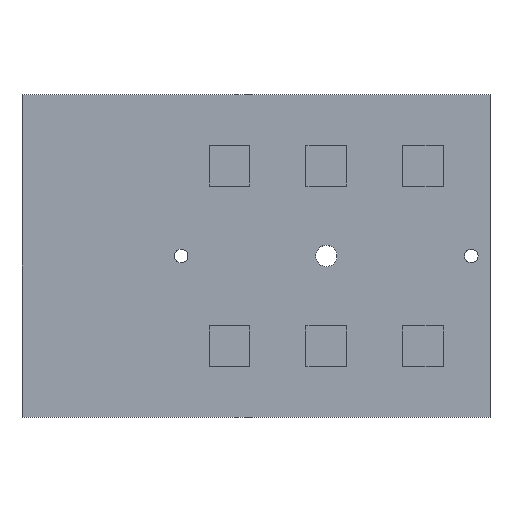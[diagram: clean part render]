
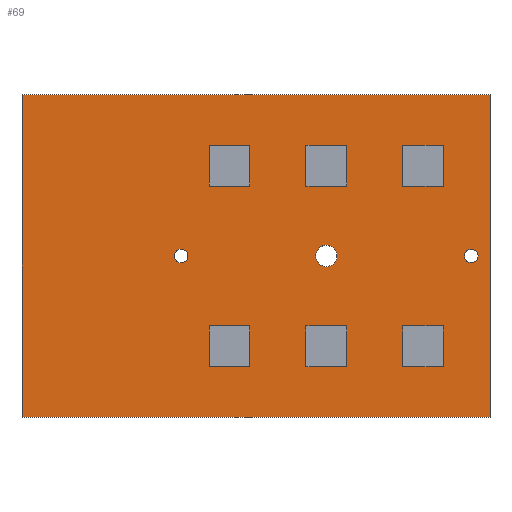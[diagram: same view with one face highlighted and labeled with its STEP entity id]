
A CAD part, top view. The second image highlights one B-rep face of the part: STEP entity #69.
In plain terms, the highlighted planar face has unit normal (0, 0, 1).
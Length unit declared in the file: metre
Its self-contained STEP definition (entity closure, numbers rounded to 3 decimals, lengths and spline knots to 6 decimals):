
#69=ADVANCED_FACE('',(#167,#168,#169,#170,#171,#172,#173,#174,#175,#176),#177,.T.);
#167=FACE_BOUND('',#306,.T.);
#168=FACE_BOUND('',#307,.T.);
#169=FACE_BOUND('',#308,.T.);
#170=FACE_BOUND('',#309,.T.);
#171=FACE_BOUND('',#310,.T.);
#172=FACE_BOUND('',#311,.T.);
#173=FACE_BOUND('',#312,.T.);
#174=FACE_BOUND('',#313,.T.);
#175=FACE_BOUND('',#314,.T.);
#176=FACE_OUTER_BOUND('',#315,.T.);
#177=PLANE('',#316);
#306=EDGE_LOOP('',(#454,#455,#456,#457));
#307=EDGE_LOOP('',(#458,#459,#460,#461));
#308=EDGE_LOOP('',(#462,#463,#464,#465));
#309=EDGE_LOOP('',(#466,#467,#468,#469));
#310=EDGE_LOOP('',(#470,#471,#472,#473));
#311=EDGE_LOOP('',(#474,#475,#476,#477));
#312=EDGE_LOOP('',(#478));
#313=EDGE_LOOP('',(#479));
#314=EDGE_LOOP('',(#480));
#315=EDGE_LOOP('',(#481,#482,#483,#484));
#316=AXIS2_PLACEMENT_3D('',#485,#486,#487);
#454=ORIENTED_EDGE('',*,*,#779,.F.);
#455=ORIENTED_EDGE('',*,*,#780,.F.);
#456=ORIENTED_EDGE('',*,*,#781,.F.);
#457=ORIENTED_EDGE('',*,*,#782,.F.);
#458=ORIENTED_EDGE('',*,*,#783,.F.);
#459=ORIENTED_EDGE('',*,*,#784,.F.);
#460=ORIENTED_EDGE('',*,*,#785,.F.);
#461=ORIENTED_EDGE('',*,*,#786,.F.);
#462=ORIENTED_EDGE('',*,*,#787,.F.);
#463=ORIENTED_EDGE('',*,*,#788,.F.);
#464=ORIENTED_EDGE('',*,*,#789,.F.);
#465=ORIENTED_EDGE('',*,*,#790,.F.);
#466=ORIENTED_EDGE('',*,*,#791,.F.);
#467=ORIENTED_EDGE('',*,*,#792,.F.);
#468=ORIENTED_EDGE('',*,*,#793,.F.);
#469=ORIENTED_EDGE('',*,*,#794,.F.);
#470=ORIENTED_EDGE('',*,*,#795,.F.);
#471=ORIENTED_EDGE('',*,*,#796,.F.);
#472=ORIENTED_EDGE('',*,*,#797,.F.);
#473=ORIENTED_EDGE('',*,*,#798,.F.);
#474=ORIENTED_EDGE('',*,*,#799,.F.);
#475=ORIENTED_EDGE('',*,*,#800,.F.);
#476=ORIENTED_EDGE('',*,*,#801,.F.);
#477=ORIENTED_EDGE('',*,*,#802,.F.);
#478=ORIENTED_EDGE('',*,*,#803,.T.);
#479=ORIENTED_EDGE('',*,*,#804,.T.);
#480=ORIENTED_EDGE('',*,*,#805,.T.);
#481=ORIENTED_EDGE('',*,*,#776,.F.);
#482=ORIENTED_EDGE('',*,*,#806,.F.);
#483=ORIENTED_EDGE('',*,*,#771,.F.);
#484=ORIENTED_EDGE('',*,*,#767,.F.);
#485=CARTESIAN_POINT('',(0.0,0.0,0.0));
#486=DIRECTION('',(0.0,0.0,1.0));
#487=DIRECTION('',(1.0,0.0,0.0));
#767=EDGE_CURVE('',#896,#898,#899,.T.);
#771=EDGE_CURVE('',#898,#904,#905,.T.);
#776=EDGE_CURVE('',#911,#896,#913,.T.);
#779=EDGE_CURVE('',#916,#917,#918,.T.);
#780=EDGE_CURVE('',#919,#916,#920,.T.);
#781=EDGE_CURVE('',#921,#919,#922,.T.);
#782=EDGE_CURVE('',#917,#921,#923,.T.);
#783=EDGE_CURVE('',#924,#925,#926,.T.);
#784=EDGE_CURVE('',#927,#924,#928,.T.);
#785=EDGE_CURVE('',#929,#927,#930,.T.);
#786=EDGE_CURVE('',#925,#929,#931,.T.);
#787=EDGE_CURVE('',#932,#933,#934,.T.);
#788=EDGE_CURVE('',#935,#932,#936,.T.);
#789=EDGE_CURVE('',#937,#935,#938,.T.);
#790=EDGE_CURVE('',#933,#937,#939,.T.);
#791=EDGE_CURVE('',#940,#941,#942,.T.);
#792=EDGE_CURVE('',#943,#940,#944,.T.);
#793=EDGE_CURVE('',#945,#943,#946,.T.);
#794=EDGE_CURVE('',#941,#945,#947,.T.);
#795=EDGE_CURVE('',#948,#949,#950,.T.);
#796=EDGE_CURVE('',#951,#948,#952,.T.);
#797=EDGE_CURVE('',#953,#951,#954,.T.);
#798=EDGE_CURVE('',#949,#953,#955,.T.);
#799=EDGE_CURVE('',#956,#957,#958,.T.);
#800=EDGE_CURVE('',#959,#956,#960,.T.);
#801=EDGE_CURVE('',#961,#959,#962,.T.);
#802=EDGE_CURVE('',#957,#961,#963,.T.);
#803=EDGE_CURVE('',#964,#964,#965,.T.);
#804=EDGE_CURVE('',#966,#966,#967,.T.);
#805=EDGE_CURVE('',#968,#968,#969,.T.);
#806=EDGE_CURVE('',#904,#911,#970,.T.);
#896=VERTEX_POINT('',#1087);
#898=VERTEX_POINT('',#1090);
#899=LINE('',#1091,#1092);
#904=VERTEX_POINT('',#1099);
#905=LINE('',#1100,#1101);
#911=VERTEX_POINT('',#1109);
#913=LINE('',#1112,#1113);
#916=VERTEX_POINT('',#1117);
#917=VERTEX_POINT('',#1118);
#918=LINE('',#1119,#1120);
#919=VERTEX_POINT('',#1121);
#920=LINE('',#1122,#1123);
#921=VERTEX_POINT('',#1124);
#922=LINE('',#1125,#1126);
#923=LINE('',#1127,#1128);
#924=VERTEX_POINT('',#1129);
#925=VERTEX_POINT('',#1130);
#926=LINE('',#1131,#1132);
#927=VERTEX_POINT('',#1133);
#928=LINE('',#1134,#1135);
#929=VERTEX_POINT('',#1136);
#930=LINE('',#1137,#1138);
#931=LINE('',#1139,#1140);
#932=VERTEX_POINT('',#1141);
#933=VERTEX_POINT('',#1142);
#934=LINE('',#1143,#1144);
#935=VERTEX_POINT('',#1145);
#936=LINE('',#1146,#1147);
#937=VERTEX_POINT('',#1148);
#938=LINE('',#1149,#1150);
#939=LINE('',#1151,#1152);
#940=VERTEX_POINT('',#1153);
#941=VERTEX_POINT('',#1154);
#942=LINE('',#1155,#1156);
#943=VERTEX_POINT('',#1157);
#944=LINE('',#1158,#1159);
#945=VERTEX_POINT('',#1160);
#946=LINE('',#1161,#1162);
#947=LINE('',#1163,#1164);
#948=VERTEX_POINT('',#1165);
#949=VERTEX_POINT('',#1166);
#950=LINE('',#1167,#1168);
#951=VERTEX_POINT('',#1169);
#952=LINE('',#1170,#1171);
#953=VERTEX_POINT('',#1172);
#954=LINE('',#1173,#1174);
#955=LINE('',#1175,#1176);
#956=VERTEX_POINT('',#1177);
#957=VERTEX_POINT('',#1178);
#958=LINE('',#1179,#1180);
#959=VERTEX_POINT('',#1181);
#960=LINE('',#1182,#1183);
#961=VERTEX_POINT('',#1184);
#962=LINE('',#1185,#1186);
#963=LINE('',#1187,#1188);
#964=VERTEX_POINT('',#1189);
#965=CIRCLE('',#1190,0.00105);
#966=VERTEX_POINT('',#1191);
#967=CIRCLE('',#1192,0.00105);
#968=VERTEX_POINT('',#1193);
#969=CIRCLE('',#1194,0.00165);
#970=LINE('',#1195,#1196);
#1087=CARTESIAN_POINT('',(0.0363,0.025,0.0));
#1090=CARTESIAN_POINT('',(0.0363,-0.025,0.0));
#1091=CARTESIAN_POINT('',(0.0363,0.,0.0));
#1092=VECTOR('',#1361,1.0);
#1099=CARTESIAN_POINT('',(-0.0363,-0.025,0.0));
#1100=CARTESIAN_POINT('',(0.,-0.025,0.0));
#1101=VECTOR('',#1364,1.0);
#1109=CARTESIAN_POINT('',(-0.0363,0.025,0.0));
#1112=CARTESIAN_POINT('',(0.0,0.025,0.0));
#1113=VECTOR('',#1368,1.0);
#1117=CARTESIAN_POINT('',(0.02275,-0.01715,0.0));
#1118=CARTESIAN_POINT('',(0.02905,-0.01715,0.0));
#1119=CARTESIAN_POINT('',(0.0259,-0.01715,0.0));
#1120=VECTOR('',#1370,1.0);
#1121=CARTESIAN_POINT('',(0.02275,-0.01085,0.0));
#1122=CARTESIAN_POINT('',(0.02275,-0.014,0.0));
#1123=VECTOR('',#1371,1.0);
#1124=CARTESIAN_POINT('',(0.02905,-0.01085,0.0));
#1125=CARTESIAN_POINT('',(0.0259,-0.01085,0.0));
#1126=VECTOR('',#1372,1.0);
#1127=CARTESIAN_POINT('',(0.02905,-0.014,0.0));
#1128=VECTOR('',#1373,1.0);
#1129=CARTESIAN_POINT('',(0.00775,-0.01715,0.0));
#1130=CARTESIAN_POINT('',(0.01405,-0.01715,0.0));
#1131=CARTESIAN_POINT('',(0.0109,-0.01715,0.0));
#1132=VECTOR('',#1374,1.0);
#1133=CARTESIAN_POINT('',(0.00775,-0.01085,0.0));
#1134=CARTESIAN_POINT('',(0.00775,-0.014,0.0));
#1135=VECTOR('',#1375,1.0);
#1136=CARTESIAN_POINT('',(0.01405,-0.01085,0.0));
#1137=CARTESIAN_POINT('',(0.0109,-0.01085,0.0));
#1138=VECTOR('',#1376,1.0);
#1139=CARTESIAN_POINT('',(0.01405,-0.014,0.0));
#1140=VECTOR('',#1377,1.0);
#1141=CARTESIAN_POINT('',(-0.00725,-0.01715,0.0));
#1142=CARTESIAN_POINT('',(-0.00095,-0.01715,0.0));
#1143=CARTESIAN_POINT('',(-0.0041,-0.01715,0.0));
#1144=VECTOR('',#1378,1.0);
#1145=CARTESIAN_POINT('',(-0.00725,-0.01085,0.0));
#1146=CARTESIAN_POINT('',(-0.00725,-0.014,0.0));
#1147=VECTOR('',#1379,1.0);
#1148=CARTESIAN_POINT('',(-0.00095,-0.01085,0.0));
#1149=CARTESIAN_POINT('',(-0.0041,-0.01085,0.0));
#1150=VECTOR('',#1380,1.0);
#1151=CARTESIAN_POINT('',(-0.00095,-0.014,0.0));
#1152=VECTOR('',#1381,1.0);
#1153=CARTESIAN_POINT('',(0.02275,0.01085,0.0));
#1154=CARTESIAN_POINT('',(0.02905,0.01085,0.0));
#1155=CARTESIAN_POINT('',(0.0259,0.01085,0.0));
#1156=VECTOR('',#1382,1.0);
#1157=CARTESIAN_POINT('',(0.02275,0.01715,0.0));
#1158=CARTESIAN_POINT('',(0.02275,0.014,0.0));
#1159=VECTOR('',#1383,1.0);
#1160=CARTESIAN_POINT('',(0.02905,0.01715,0.0));
#1161=CARTESIAN_POINT('',(0.0259,0.01715,0.0));
#1162=VECTOR('',#1384,1.0);
#1163=CARTESIAN_POINT('',(0.02905,0.014,0.0));
#1164=VECTOR('',#1385,1.0);
#1165=CARTESIAN_POINT('',(0.00775,0.01085,0.0));
#1166=CARTESIAN_POINT('',(0.01405,0.01085,0.0));
#1167=CARTESIAN_POINT('',(0.0109,0.01085,0.0));
#1168=VECTOR('',#1386,1.0);
#1169=CARTESIAN_POINT('',(0.00775,0.01715,0.0));
#1170=CARTESIAN_POINT('',(0.00775,0.014,0.0));
#1171=VECTOR('',#1387,1.0);
#1172=CARTESIAN_POINT('',(0.01405,0.01715,0.0));
#1173=CARTESIAN_POINT('',(0.0109,0.01715,0.0));
#1174=VECTOR('',#1388,1.0);
#1175=CARTESIAN_POINT('',(0.01405,0.014,0.0));
#1176=VECTOR('',#1389,1.0);
#1177=CARTESIAN_POINT('',(-0.00725,0.01085,0.0));
#1178=CARTESIAN_POINT('',(-0.00095,0.01085,0.0));
#1179=CARTESIAN_POINT('',(-0.0041,0.01085,0.0));
#1180=VECTOR('',#1390,1.0);
#1181=CARTESIAN_POINT('',(-0.00725,0.01715,0.0));
#1182=CARTESIAN_POINT('',(-0.00725,0.014,0.0));
#1183=VECTOR('',#1391,1.0);
#1184=CARTESIAN_POINT('',(-0.00095,0.01715,0.0));
#1185=CARTESIAN_POINT('',(-0.0041,0.01715,0.0));
#1186=VECTOR('',#1392,1.0);
#1187=CARTESIAN_POINT('',(-0.00095,0.014,0.0));
#1188=VECTOR('',#1393,1.0);
#1189=CARTESIAN_POINT('',(-0.01265,0.0,0.));
#1190=AXIS2_PLACEMENT_3D('',#1394,#1395,#1396);
#1191=CARTESIAN_POINT('',(0.03235,0.0,0.));
#1192=AXIS2_PLACEMENT_3D('',#1397,#1398,#1399);
#1193=CARTESIAN_POINT('',(0.00925,0.0,0.));
#1194=AXIS2_PLACEMENT_3D('',#1400,#1401,#1402);
#1195=CARTESIAN_POINT('',(-0.0363,0.,0.0));
#1196=VECTOR('',#1403,1.0);
#1361=DIRECTION('',(0.,-1.0,0.0));
#1364=DIRECTION('',(-1.0,0.,0.0));
#1368=DIRECTION('',(1.0,0.,0.0));
#1370=DIRECTION('',(1.0,0.0,0.0));
#1371=DIRECTION('',(0.0,-1.0,0.0));
#1372=DIRECTION('',(-1.0,0.0,0.0));
#1373=DIRECTION('',(0.0,1.0,0.0));
#1374=DIRECTION('',(1.0,0.0,0.0));
#1375=DIRECTION('',(0.0,-1.0,0.0));
#1376=DIRECTION('',(-1.0,0.0,0.0));
#1377=DIRECTION('',(0.0,1.0,0.0));
#1378=DIRECTION('',(1.0,0.0,0.0));
#1379=DIRECTION('',(0.0,-1.0,0.0));
#1380=DIRECTION('',(-1.0,0.0,0.0));
#1381=DIRECTION('',(0.0,1.0,0.0));
#1382=DIRECTION('',(1.0,0.0,0.0));
#1383=DIRECTION('',(0.0,-1.0,0.0));
#1384=DIRECTION('',(-1.0,0.0,0.0));
#1385=DIRECTION('',(0.0,1.0,0.0));
#1386=DIRECTION('',(1.0,0.0,0.0));
#1387=DIRECTION('',(0.0,-1.0,0.0));
#1388=DIRECTION('',(-1.0,0.0,0.0));
#1389=DIRECTION('',(0.0,1.0,0.0));
#1390=DIRECTION('',(1.0,0.0,0.0));
#1391=DIRECTION('',(0.0,-1.0,0.0));
#1392=DIRECTION('',(-1.0,0.0,0.0));
#1393=DIRECTION('',(0.0,1.0,0.0));
#1394=CARTESIAN_POINT('',(-0.0116,0.0,0.));
#1395=DIRECTION('',(0.0,0.0,-1.0));
#1396=DIRECTION('',(-1.0,0.0,0.0));
#1397=CARTESIAN_POINT('',(0.0334,0.0,0.));
#1398=DIRECTION('',(0.0,0.0,-1.0));
#1399=DIRECTION('',(-1.0,0.0,0.0));
#1400=CARTESIAN_POINT('',(0.0109,0.0,0.));
#1401=DIRECTION('',(0.0,0.0,-1.0));
#1402=DIRECTION('',(-1.0,0.0,0.0));
#1403=DIRECTION('',(0.,1.0,0.0));
